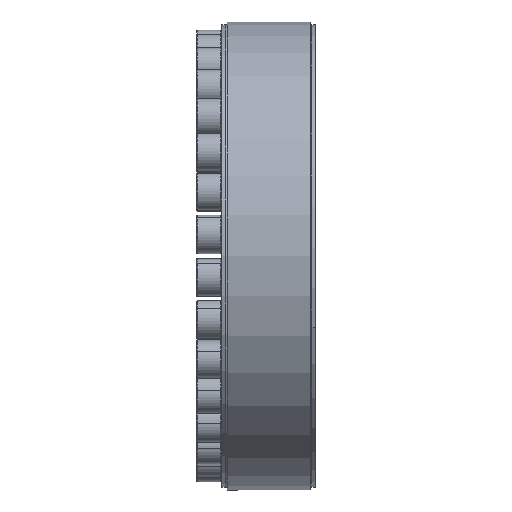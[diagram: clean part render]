
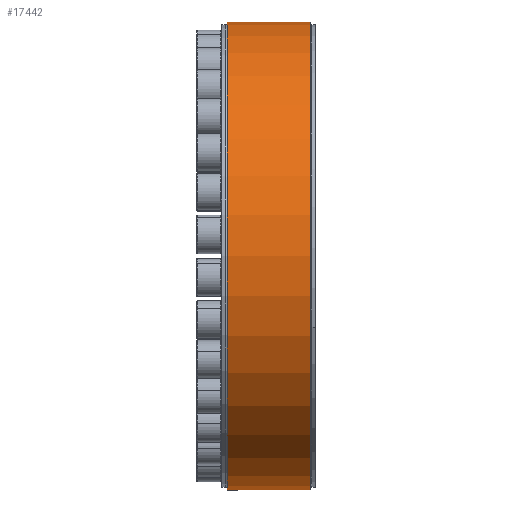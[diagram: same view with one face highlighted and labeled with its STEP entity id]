
A CAD part, top view. The second image highlights one B-rep face of the part: STEP entity #17442.
In plain terms, the highlighted cylindrical face has radius 130 mm (diameter 260 mm), a partial arc.
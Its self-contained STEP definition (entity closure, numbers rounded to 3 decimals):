
#479 = CARTESIAN_POINT ( 'NONE',  ( 23., 0., 0. ) ) ;
#912 = ORIENTED_EDGE ( 'NONE', *, *, #2469, .T. ) ;
#1213 = VERTEX_POINT ( 'NONE', #6508 ) ;
#1868 = DIRECTION ( 'NONE',  ( -1., 0., 0. ) ) ;
#2469 = EDGE_CURVE ( 'NONE', #1213, #17430, #21128, .T. ) ;
#3544 = LINE ( 'NONE', #11709, #7523 ) ;
#4760 = EDGE_LOOP ( 'NONE', ( #912, #21670, #14315, #15095 ) ) ;
#4987 = CARTESIAN_POINT ( 'NONE',  ( -26., -130., 0. ) ) ;
#6508 = CARTESIAN_POINT ( 'NONE',  ( 23., -130., 0. ) ) ;
#7523 = VECTOR ( 'NONE', #18525, 1000. ) ;
#7594 = EDGE_CURVE ( 'NONE', #18519, #16270, #18866, .T. ) ;
#7919 = AXIS2_PLACEMENT_3D ( 'NONE', #13817, #1868, #20438 ) ;
#9192 = EDGE_CURVE ( 'NONE', #17430, #16270, #3544, .T. ) ;
#11709 = CARTESIAN_POINT ( 'NONE',  ( -26., 130., 0. ) ) ;
#12301 = CARTESIAN_POINT ( 'NONE',  ( 23., 130., 0. ) ) ;
#12330 = DIRECTION ( 'NONE',  ( 0., -1., 0. ) ) ;
#13741 = AXIS2_PLACEMENT_3D ( 'NONE', #479, #17466, #12330 ) ;
#13817 = CARTESIAN_POINT ( 'NONE',  ( -23., 0., 0. ) ) ;
#13967 = DIRECTION ( 'NONE',  ( 0., -1., 0. ) ) ;
#14315 = ORIENTED_EDGE ( 'NONE', *, *, #7594, .F. ) ;
#15095 = ORIENTED_EDGE ( 'NONE', *, *, #21422, .F. ) ;
#16270 = VERTEX_POINT ( 'NONE', #20066 ) ;
#16705 = VECTOR ( 'NONE', #16744, 1000. ) ;
#16744 = DIRECTION ( 'NONE',  ( -1., 0., 0. ) ) ;
#16867 = CYLINDRICAL_SURFACE ( 'NONE', #17262, 130. ) ;
#17262 = AXIS2_PLACEMENT_3D ( 'NONE', #17508, #19263, #13967 ) ;
#17430 = VERTEX_POINT ( 'NONE', #12301 ) ;
#17442 = ADVANCED_FACE ( 'NONE', ( #20016 ), #16867, .T. ) ;
#17466 = DIRECTION ( 'NONE',  ( -1., 0., 0. ) ) ;
#17508 = CARTESIAN_POINT ( 'NONE',  ( -26., 0., 0. ) ) ;
#18519 = VERTEX_POINT ( 'NONE', #20463 ) ;
#18525 = DIRECTION ( 'NONE',  ( -1., 0., 0. ) ) ;
#18866 = CIRCLE ( 'NONE', #7919, 130. ) ;
#19263 = DIRECTION ( 'NONE',  ( -1., 0., 0. ) ) ;
#20016 = FACE_OUTER_BOUND ( 'NONE', #4760, .T. ) ;
#20066 = CARTESIAN_POINT ( 'NONE',  ( -23., 130., 0. ) ) ;
#20438 = DIRECTION ( 'NONE',  ( 0., -1., 0. ) ) ;
#20463 = CARTESIAN_POINT ( 'NONE',  ( -23., -130., 0. ) ) ;
#21128 = CIRCLE ( 'NONE', #13741, 130. ) ;
#21149 = LINE ( 'NONE', #4987, #16705 ) ;
#21422 = EDGE_CURVE ( 'NONE', #1213, #18519, #21149, .T. ) ;
#21670 = ORIENTED_EDGE ( 'NONE', *, *, #9192, .T. ) ;
